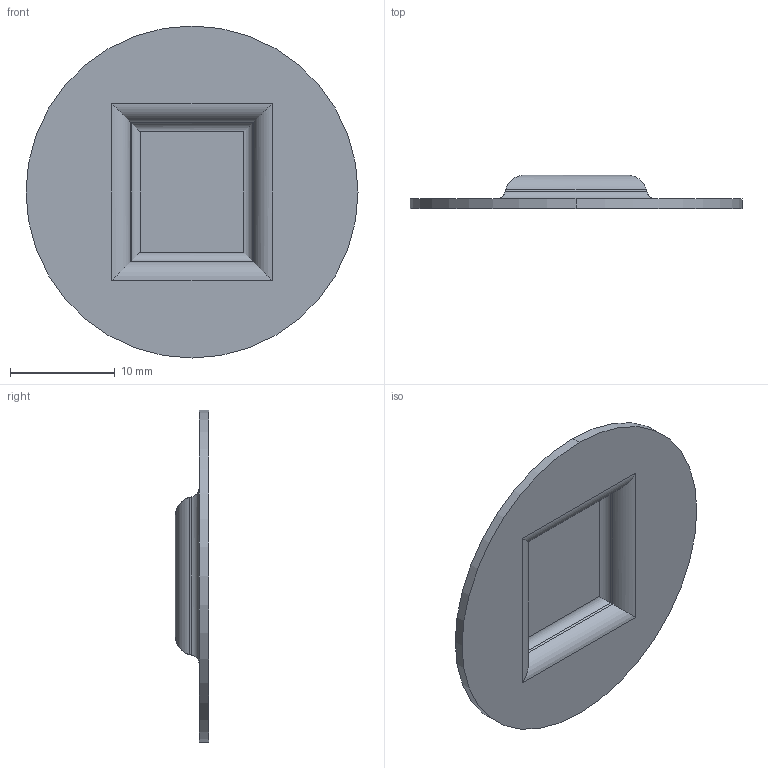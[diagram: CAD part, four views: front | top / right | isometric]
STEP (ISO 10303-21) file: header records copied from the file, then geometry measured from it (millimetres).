
FILE_DESCRIPTION (( 'STEP AP203' ), '1' );
FILE_NAME ('1227576 - 10.STEP', '2024-11-18T14:51:43', ( '' ), ( '' ), 'SwSTEP 2.0', 'SolidWorks 2024', '' );
FILE_SCHEMA (( 'CONFIG_CONTROL_DESIGN' ));
Length unit declared in the file: inch
Products named in the file (1): 1227576 - 10
Bounding box: 31.75 x 3.17 x 31.75 mm (x, y, z)
Volume: 778.7 mm3; surface area: 1794.3 mm2
Topology: 1 solids, 1 shells, 30 faces, 62 edges, 36 vertices
Faces by surface type: cylinder 18, plane 12
Entity records: 841 total; most frequent: CARTESIAN_POINT 177, ORIENTED_EDGE 124, DIRECTION 112, EDGE_CURVE 62, LINE 42, VECTOR 42, VERTEX_POINT 36, AXIS2_PLACEMENT_3D 35
